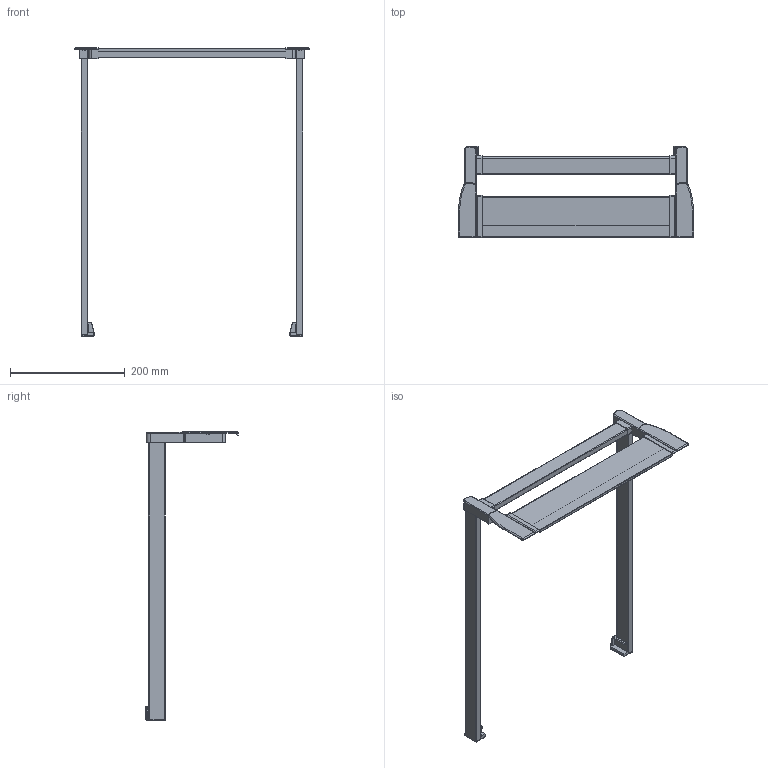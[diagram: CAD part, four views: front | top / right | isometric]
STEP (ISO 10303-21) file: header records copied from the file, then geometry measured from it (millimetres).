
FILE_DESCRIPTION (( 'STEP AP214' ), '1' );
FILE_NAME ('1_P620_NL 500_KAB 450_16er KS_.step', '2009-09-16T06:30:03', ( 'Waldinger Reinhard' ), ( 'Grass GmbH' ), 'SwSTEP 2.0', 'SolidWorks 2009', '' );
FILE_SCHEMA (( 'AUTOMOTIVE_DESIGN' ));
Length unit declared in the file: millimetre
Products named in the file (1): 1_P620_NL 500_KAB 450_16er KS_
Bounding box: 409.6 x 160.5 x 502.8 mm (x, y, z)
Volume: 814005.3 mm3; surface area: 195897.9 mm2
Topology: 1 solids, 1 shells, 220 faces, 578 edges, 364 vertices
Faces by surface type: plane 97, cylinder 91, torus 28, bspline 2, sphere 2
Entity records: 7004 total; most frequent: CARTESIAN_POINT 1345, DIRECTION 1198, ORIENTED_EDGE 1152, EDGE_CURVE 576, AXIS2_PLACEMENT_3D 433, VERTEX_POINT 364, VECTOR 332, LINE 332
